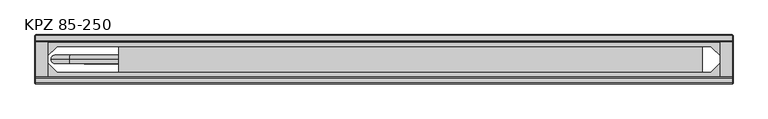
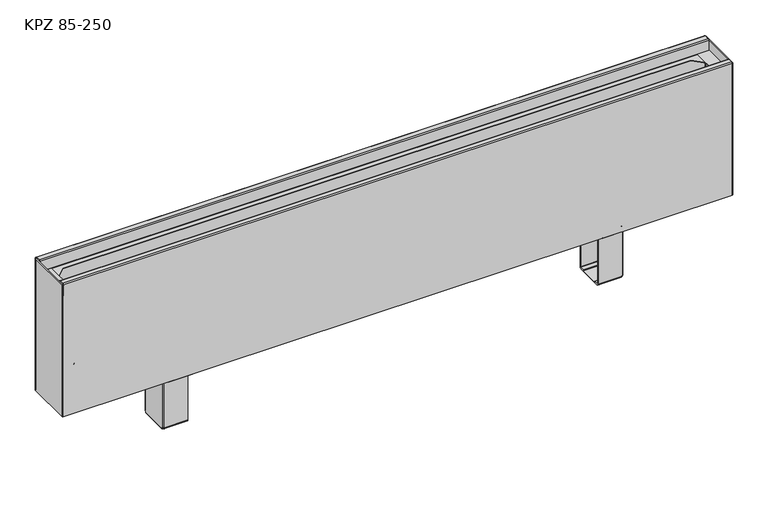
"""IFC4 building model written with IfcOpenShell, lengths in millimetres: proxy geometry, TECHNO_Конвектор напольный_Vita KPZ 85 : KPZ 85-250."""

from ifc_helpers import new_model, si_unit, point, frame, origin, place, context, project, spatial, polyline, circle_curve, ellipse_curve, trimmed, outline, extrude, source, transform, mapped, element, save
from ifc_brep_helpers import plane_surface, cylinder_surface, revolved_surface, advanced_brep


def kpz_85_250_7eb617d8(model_context):
    return source(origin(), model_context, "Body", "SolidModel", [
        advanced_brep(
        [(409.7, -116.8, 1.5), (409.7, -114.5, 3.8), (409.7, -114.5, 4.9), (409.7, -116.0, 4.9), (409.7, -116.0, 3.8), (409.7, -116.8, 3.0), (409.7, -124.5, 3.0), (409.7, -124.5, 1.5), (409.7, -117.6, 1.5), (409.7, -114.5, 97.7), (409.7, -113.7, 98.5), (409.7, -101.0, 98.5), (409.7, -101.0, 100.0), (409.7, -113.7, 100.0), (409.7, -116.0, 97.7), (409.7, -116.0, 95.5), (409.7, -114.5, 95.5), (409.7, -170.5, 3.8), (409.7, -168.2, 1.5), (409.7, -167.4, 1.5), (409.7, -160.5, 1.5), (409.7, -160.5, 3.0), (409.7, -168.2, 3.0), (409.7, -169.0, 3.8), (409.7, -169.0, 4.9), (409.7, -170.5, 4.9), (409.7, -169.0, 97.7), (409.7, -171.3, 100.0), (409.7, -184.0, 100.0), (409.7, -184.0, 98.5), (409.7, -171.3, 98.5), (409.7, -170.5, 97.7), (409.7, -170.5, 95.5), (409.7, -169.0, 95.5), (367.0, -170.5, 97.7), (367.0, -171.3, 98.5), (367.0, -184.0, 98.5), (367.0, -184.0, 100.0), (367.0, -171.3, 100.0), (367.0, -169.0, 97.7), (367.0, -169.0, 3.8), (367.0, -168.2, 3.0), (367.0, -160.5, 3.0), (367.0, -160.5, 1.5), (367.0, -124.5, 1.5), (367.0, -124.5, 3.0), (367.0, -116.8, 3.0), (367.0, -116.0, 3.8), (367.0, -116.0, 97.7), (367.0, -113.7, 100.0), (367.0, -101.0, 100.0), (367.0, -101.0, 98.5), (367.0, -113.7, 98.5), (367.0, -114.5, 97.7), (367.0, -114.5, 3.8), (367.0, -116.8, 1.5), (367.0, -117.6, 1.5), (367.0, -117.6, 0.0), (367.0, -167.4, 0.0), (367.0, -167.4, 1.5), (367.0, -168.2, 1.5), (367.0, -170.5, 3.8), (410.5, -116.8, 95.5), (410.5, -168.2, 95.5), (412.0, -168.2, 95.5), (412.0, -116.8, 95.5), (412.0, -116.8, 4.9), (412.0, -117.6, 4.9), (410.5, -117.6, 4.9), (410.5, -116.8, 4.9), (410.5, -168.2, 4.9), (410.5, -167.4, 4.9), (412.0, -167.4, 4.9), (412.0, -168.2, 4.9), (410.5, -117.6, 2.3), (410.5, -167.4, 2.3), (412.0, -167.4, 2.3), (412.0, -117.6, 2.3), (409.7, -117.6, 0.0), (409.7, -167.4, 0.0)],
        [
            (0, 1, circle_curve(frame((409.7, -116.8, 3.8), z_axis=(1.0, 0.0, 0.0), x_axis=(0.0, -1.0, 0.0)), 2.3)),
            (1, 2),
            (2, 3),
            (3, 4),
            (4, 5, circle_curve(frame((409.7, -116.8, 3.8), z_axis=(-1.0, 0.0, 0.0), x_axis=(0.0, -1.0, 0.0)), 0.8)),
            (5, 6),
            (6, 7),
            (7, 8),
            (8, 0),
            (9, 10, circle_curve(frame((409.7, -113.7, 97.7), z_axis=(-1.0, 0.0, 0.0), x_axis=(0.0, -1.0, 0.0)), 0.8)),
            (10, 11),
            (11, 12),
            (12, 13),
            (13, 14, circle_curve(frame((409.7, -113.7, 97.7), z_axis=(1.0, 0.0, 0.0), x_axis=(0.0, -1.0, 0.0)), 2.3)),
            (14, 15),
            (15, 16),
            (16, 9),
            (17, 18, circle_curve(frame((409.7, -168.2, 3.8), z_axis=(1.0, 0.0, 0.0), x_axis=(0.0, -1.0, 0.0)), 2.3)),
            (18, 19),
            (19, 20),
            (20, 21),
            (21, 22),
            (22, 23, circle_curve(frame((409.7, -168.2, 3.8), z_axis=(-1.0, 0.0, 0.0), x_axis=(0.0, -1.0, 0.0)), 0.8)),
            (23, 24),
            (24, 25),
            (25, 17),
            (26, 27, circle_curve(frame((409.7, -171.3, 97.7), z_axis=(1.0, 0.0, 0.0), x_axis=(0.0, -1.0, 0.0)), 2.3)),
            (27, 28),
            (28, 29),
            (29, 30),
            (30, 31, circle_curve(frame((409.7, -171.3, 97.7), z_axis=(-1.0, 0.0, 0.0), x_axis=(0.0, -1.0, 0.0)), 0.8)),
            (31, 32),
            (32, 33),
            (33, 26),
            (34, 35, circle_curve(frame((367.0, -171.3, 97.7), z_axis=(1.0, 0.0, 0.0), x_axis=(0.0, -1.0, 0.0)), 0.8)),
            (35, 36),
            (36, 37),
            (37, 38),
            (38, 39, circle_curve(frame((367.0, -171.3, 97.7), z_axis=(-1.0, 0.0, 0.0), x_axis=(0.0, -1.0, 0.0)), 2.3)),
            (39, 40),
            (40, 41, circle_curve(frame((367.0, -168.2, 3.8), z_axis=(1.0, 0.0, 0.0), x_axis=(0.0, -1.0, 0.0)), 0.8)),
            (41, 42),
            (42, 43),
            (43, 44),
            (44, 45),
            (45, 46),
            (46, 47, circle_curve(frame((367.0, -116.8, 3.8), z_axis=(1.0, 0.0, 0.0), x_axis=(0.0, -1.0, 0.0)), 0.8)),
            (47, 48),
            (48, 49, circle_curve(frame((367.0, -113.7, 97.7), z_axis=(-1.0, 0.0, 0.0), x_axis=(0.0, -1.0, 0.0)), 2.3)),
            (49, 50),
            (50, 51),
            (51, 52),
            (52, 53, circle_curve(frame((367.0, -113.7, 97.7), z_axis=(1.0, 0.0, 0.0), x_axis=(0.0, -1.0, 0.0)), 0.8)),
            (53, 54),
            (54, 55, circle_curve(frame((367.0, -116.8, 3.8), z_axis=(-1.0, 0.0, 0.0), x_axis=(0.0, -1.0, 0.0)), 2.3)),
            (55, 56),
            (56, 57),
            (57, 58),
            (58, 59),
            (59, 60),
            (60, 61, circle_curve(frame((367.0, -168.2, 3.8), z_axis=(-1.0, 0.0, 0.0), x_axis=(0.0, -1.0, 0.0)), 2.3)),
            (61, 34),
            (30, 35),
            (34, 31),
            (29, 36),
            (28, 37),
            (27, 38),
            (26, 39),
            (33, 24),
            (23, 40),
            (22, 41),
            (5, 46),
            (45, 6),
            (4, 47),
            (3, 15),
            (14, 48),
            (13, 49),
            (12, 50),
            (11, 51),
            (10, 52),
            (9, 53),
            (16, 2),
            (1, 54),
            (0, 55),
            (8, 56),
            (17, 61),
            (60, 18),
            (25, 32),
            (21, 42),
            (20, 43),
            (59, 19),
            (44, 7),
            (15, 62, circle_curve(frame((409.7, -116.8, 95.5), z_axis=(0.0, 0.0, -1.0), x_axis=(-1.0, 0.0, 0.0)), 0.8)),
            (62, 63),
            (63, 33, circle_curve(frame((409.7, -168.2, 95.5), z_axis=(0.0, 0.0, -1.0), x_axis=(-1.0, 0.0, 0.0)), 0.8)),
            (32, 64, circle_curve(frame((409.7, -168.2, 95.5), z_axis=(0.0, 0.0, 1.0), x_axis=(-1.0, 0.0, 0.0)), 2.3)),
            (64, 65),
            (65, 16, circle_curve(frame((409.7, -116.8, 95.5), z_axis=(0.0, 0.0, 1.0), x_axis=(-1.0, 0.0, 0.0)), 2.3)),
            (2, 66, circle_curve(frame((409.7, -116.8, 4.9), z_axis=(0.0, 0.0, -1.0), x_axis=(-1.0, 0.0, 0.0)), 2.3)),
            (66, 67),
            (67, 68),
            (68, 69),
            (69, 3, circle_curve(frame((409.7, -116.8, 4.9), z_axis=(0.0, 0.0, 1.0), x_axis=(-1.0, 0.0, 0.0)), 0.8)),
            (24, 70, circle_curve(frame((409.7, -168.2, 4.9), z_axis=(0.0, 0.0, 1.0), x_axis=(-1.0, 0.0, 0.0)), 0.8)),
            (70, 71),
            (71, 72),
            (72, 73),
            (73, 25, circle_curve(frame((409.7, -168.2, 4.9), z_axis=(0.0, 0.0, -1.0), x_axis=(-1.0, 0.0, 0.0)), 2.3)),
            (69, 62),
            (68, 74),
            (74, 75),
            (75, 71),
            (70, 63),
            (64, 73),
            (72, 76),
            (76, 77),
            (77, 67),
            (66, 65),
            (8, 74, circle_curve(frame((409.7, -117.6, 2.3), z_axis=(0.0, -1.0, 0.0), x_axis=(-1.0, 0.0, 0.0)), 0.8)),
            (77, 78, circle_curve(frame((409.7, -117.6, 2.3), z_axis=(0.0, 1.0, 0.0), x_axis=(-1.0, 0.0, 0.0)), 2.3)),
            (78, 57),
            (58, 79),
            (79, 76, circle_curve(frame((409.7, -167.4, 2.3), z_axis=(0.0, -1.0, 0.0), x_axis=(-1.0, 0.0, 0.0)), 2.3)),
            (75, 19, circle_curve(frame((409.7, -167.4, 2.3), z_axis=(0.0, 1.0, 0.0), x_axis=(-1.0, 0.0, 0.0)), 0.8)),
            (20, 7),
            (79, 78),
        ],
        [
            plane_surface(frame((409.7, -172.1, 97.7), z_axis=(1.0, 0.0, 0.0), x_axis=(0.0, 0.0, 1.0))),
            plane_surface(frame((367.0, -172.1, 97.7), z_axis=(-1.0, 0.0, 0.0), x_axis=(0.0, 0.0, -1.0))),
            revolved_surface(polyline([(409.7, -172.10000000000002, 97.7), (367.0, -172.10000000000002, 97.7)]), (409.7, -171.3, 97.7), (1.0, 0.0, 0.0)),
            plane_surface(frame((367.0, -171.3, 98.5), z_axis=(0.0, 0.0, -1.0), x_axis=(1.0, 0.0, 0.0))),
            plane_surface(frame((367.0, -184.0, 98.5), z_axis=(0.0, -1.0, 0.0), x_axis=(1.0, 0.0, 0.0))),
            plane_surface(frame((367.0, -184.0, 100.0), z_axis=(0.0, 0.0, 1.0), x_axis=(1.0, 0.0, 0.0))),
            cylinder_surface(frame((409.7, -171.3, 97.7), z_axis=(-1.0, 0.0, 0.0), x_axis=(0.0, -1.0, 0.0)), 2.3),
            plane_surface(frame((367.0, -169.0, 97.7), z_axis=(0.0, 1.0, 3.6919938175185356e-12), x_axis=(1.0, 0.0, 0.0))),
            revolved_surface(polyline([(409.7, -169.0, 3.8), (367.0, -169.0, 3.8)]), (409.7, -168.2, 3.8), (1.0, 0.0, 0.0)),
            plane_surface(frame((367.0, -124.5, 3.0), z_axis=(0.0, 0.0, 1.0), x_axis=(1.0, 0.0, 0.0))),
            revolved_surface(polyline([(409.7, -117.6, 3.8), (367.0, -117.6, 3.8)]), (412.0, -116.8, 3.8), (1.0, 0.0, 0.0)),
            plane_surface(frame((367.0, -116.0, 3.8), z_axis=(0.0, -1.0, 0.0), x_axis=(1.0, 0.0, 0.0))),
            cylinder_surface(frame((412.0, -113.7, 97.7), z_axis=(-1.0, 0.0, 0.0), x_axis=(0.0, -1.0, 0.0)), 2.3),
            plane_surface(frame((367.0, -113.7, 100.0), z_axis=(0.0, 0.0, 1.0), x_axis=(1.0, 0.0, 0.0))),
            plane_surface(frame((367.0, -101.0, 100.0), z_axis=(0.0, 1.0, 0.0), x_axis=(1.0, 0.0, 0.0))),
            plane_surface(frame((367.0, -101.0, 98.5), z_axis=(0.0, 0.0, -1.0), x_axis=(1.0, 0.0, 0.0))),
            revolved_surface(polyline([(409.7, -114.5, 97.7), (367.0, -114.5, 97.7)]), (412.0, -113.7, 97.7), (1.0, 0.0, 0.0)),
            plane_surface(frame((367.0, -114.5, 97.7), z_axis=(0.0, 1.0, 0.0), x_axis=(1.0, 0.0, 0.0))),
            cylinder_surface(frame((412.0, -116.8, 3.8), z_axis=(-1.0, 0.0, 0.0), x_axis=(0.0, -1.0, 0.0)), 2.3),
            plane_surface(frame((367.0, -116.8, 1.5), z_axis=(0.0, 0.0, -1.0), x_axis=(1.0, 0.0, 0.0))),
            cylinder_surface(frame((409.7, -168.2, 3.8), z_axis=(-1.0, 0.0, 0.0), x_axis=(0.0, -1.0, 0.0)), 2.3),
            plane_surface(frame((367.0, -170.5, 3.8), z_axis=(0.0, -1.0, 0.0), x_axis=(1.0, 0.0, 0.0))),
            plane_surface(frame((367.0, -168.2, 3.0), z_axis=(0.0, 0.0, 1.0), x_axis=(1.0, 0.0, 0.0))),
            plane_surface(frame((367.0, -160.5, 3.0), z_axis=(0.0, 1.0, 0.0), x_axis=(1.0, 0.0, 0.0))),
            plane_surface(frame((367.0, -160.5, 1.5), z_axis=(0.0, 0.0, -1.0), x_axis=(1.0, 0.0, 0.0))),
            plane_surface(frame((367.0, -124.5, 1.5), z_axis=(0.0, -1.0, 0.0), x_axis=(1.0, 0.0, 0.0))),
            plane_surface(frame((409.7, -116.0, 95.5), z_axis=(0.0, 0.0, 1.0), x_axis=(0.0, -1.0, 0.0))),
            plane_surface(frame((409.7, -116.0, 4.9), z_axis=(0.0, 0.0, -1.0), x_axis=(0.0, 1.0, 0.0))),
            revolved_surface(polyline([(408.9, -116.8, 4.9), (408.9, -116.8, 95.5)]), (409.7, -116.8, 4.9), (0.0, 0.0, -1.0)),
            plane_surface(frame((410.5, -116.8, 95.5), z_axis=(-1.0, 0.0, 0.0), x_axis=(0.0, 0.0, -1.0))),
            plane_surface(frame((412.0, -117.6, 95.5), z_axis=(1.0, -4.3226800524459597e-10, 0.0), x_axis=(0.0, 0.0, -1.0))),
            cylinder_surface(frame((409.7, -116.8, 4.9), z_axis=(0.0, 0.0, 1.0), x_axis=(-1.0, 0.0, 0.0)), 2.3),
            cylinder_surface(frame((409.7, -168.2, 0.0), z_axis=(0.0, 0.0, 1.0), x_axis=(-1.0, 0.0, 0.0)), 2.3),
            revolved_surface(polyline([(408.9, -168.2, 4.9), (408.9, -168.2, 95.5)]), (409.7, -168.2, 0.0), (0.0, 0.0, -1.0)),
            plane_surface(frame((367.0, -117.6, 1.5), z_axis=(0.0, 1.0, 0.0), x_axis=(0.0, 0.0, 1.0))),
            plane_surface(frame((367.0, -167.4, 1.5), z_axis=(0.0, -1.0, 0.0), x_axis=(0.0, 0.0, -1.0))),
            plane_surface(frame((367.0, -117.6, 1.5), z_axis=(0.0, 0.0, 1.0), x_axis=(0.0, -1.0, 0.0))),
            revolved_surface(polyline([(408.9, -167.4, 2.3), (408.9, -117.6, 2.3)]), (409.7, -167.4, 2.3), (0.0, -1.0, 0.0)),
            cylinder_surface(frame((409.7, -167.4, 2.3), z_axis=(0.0, 1.0, 0.0), x_axis=(-1.0, 0.0, 0.0)), 2.3),
            plane_surface(frame((409.7, -117.6, 0.0), z_axis=(0.0, 0.0, -1.0), x_axis=(0.0, -1.0, 0.0))),
        ],
        [
            (0, [[1, 2, 3, 4, 5, 6, 7, 8, 9]]),
            (0, [[10, 11, 12, 13, 14, 15, 16, 17]]),
            (0, [[18, 19, 20, 21, 22, 23, 24, 25, 26]]),
            (0, [[27, 28, 29, 30, 31, 32, 33, 34]]),
            (1, [[35, 36, 37, 38, 39, 40, 41, 42, 43, 44, 45, 46, 47, 48, 49, 50, 51, 52, 53, 54, 55, 56, 57, 58, 59, 60, 61, 62]]),
            (2, [[-31, 63, -35, 64]]),
            (3, [[-30, 65, -36, -63]]),
            (4, [[-29, 66, -37, -65]]),
            (5, [[-28, 67, -38, -66]]),
            (6, [[-27, 68, -39, -67]]),
            (7, [[-40, -68, -34, 69, -24, 70]]),
            (8, [[-23, 71, -41, -70]]),
            (9, [[-6, 72, -46, 73]]),
            (10, [[-5, 74, -47, -72]]),
            (11, [[-48, -74, -4, 75, -15, 76]]),
            (12, [[-14, 77, -49, -76]]),
            (13, [[-13, 78, -50, -77]]),
            (14, [[-12, 79, -51, -78]]),
            (15, [[-11, 80, -52, -79]]),
            (16, [[-10, 81, -53, -80]]),
            (17, [[-54, -81, -17, 82, -2, 83]]),
            (18, [[-1, 84, -55, -83]]),
            (19, [[-84, -9, 85, -56]]),
            (20, [[-18, 86, -61, 87]]),
            (21, [[-62, -86, -26, 88, -32, -64]]),
            (22, [[-22, 89, -42, -71]]),
            (23, [[-21, 90, -43, -89]]),
            (24, [[-87, -60, 91, -19]]),
            (25, [[-7, -73, -45, 92]]),
            (26, [[93, 94, 95, -33, 96, 97, 98, -16]]),
            (27, [[99, 100, 101, 102, 103, -3]]),
            (27, [[104, 105, 106, 107, 108, -25]]),
            (28, [[-93, -75, -103, 109]]),
            (29, [[-94, -109, -102, 110, 111, 112, -105, 113]]),
            (30, [[-97, 114, -107, 115, 116, 117, -100, 118]]),
            (31, [[-98, -118, -99, -82]]),
            (32, [[-96, -88, -108, -114]]),
            (33, [[-95, -113, -104, -69]]),
            (34, [[-57, -85, 119, -110, -101, -117, 120, 121]]),
            (35, [[122, 123, -115, -106, -112, 124, -91, -59]]),
            (36, [[125, -92, -44, -90]]),
            (37, [[-119, -8, -125, -20, -124, -111]]),
            (38, [[-120, -116, -123, 126]]),
            (39, [[-121, -126, -122, -58]]),
        ],
    ),
        advanced_brep(
        [(-409.7, -168.2, 1.5), (-409.7, -170.5, 3.8), (-409.7, -170.5, 4.9), (-409.7, -169.0, 4.9), (-409.7, -169.0, 3.8), (-409.7, -168.2, 3.0), (-409.7, -160.5, 3.0), (-409.7, -160.5, 1.5), (-409.7, -167.4, 1.5), (-409.7, -170.5, 97.7), (-409.7, -171.3, 98.5), (-409.7, -184.0, 98.5), (-409.7, -184.0, 100.0), (-409.7, -171.3, 100.0), (-409.7, -169.0, 97.7), (-409.7, -169.0, 95.5), (-409.7, -170.5, 95.5), (-409.7, -114.5, 3.8), (-409.7, -116.8, 1.5), (-409.7, -117.6, 1.5), (-409.7, -124.5, 1.5), (-409.7, -124.5, 3.0), (-409.7, -116.8, 3.0), (-409.7, -116.0, 3.8), (-409.7, -116.0, 4.9), (-409.7, -114.5, 4.9), (-409.7, -116.0, 97.7), (-409.7, -113.7, 100.0), (-409.7, -101.0, 100.0), (-409.7, -101.0, 98.5), (-409.7, -113.7, 98.5), (-409.7, -114.5, 97.7), (-409.7, -114.5, 95.5), (-409.7, -116.0, 95.5), (-367.0, -114.5, 97.7), (-367.0, -113.7, 98.5), (-367.0, -101.0, 98.5), (-367.0, -101.0, 100.0), (-367.0, -113.7, 100.0), (-367.0, -116.0, 97.7), (-367.0, -116.0, 3.8), (-367.0, -116.8, 3.0), (-367.0, -124.5, 3.0), (-367.0, -124.5, 1.5), (-367.0, -160.5, 1.5), (-367.0, -160.5, 3.0), (-367.0, -168.2, 3.0), (-367.0, -169.0, 3.8), (-367.0, -169.0, 97.7), (-367.0, -171.3, 100.0), (-367.0, -184.0, 100.0), (-367.0, -184.0, 98.5), (-367.0, -171.3, 98.5), (-367.0, -170.5, 97.7), (-367.0, -170.5, 3.8), (-367.0, -168.2, 1.5), (-367.0, -167.4, 1.5), (-367.0, -167.4, 0.0), (-367.0, -117.6, 0.0), (-367.0, -117.6, 1.5), (-367.0, -116.8, 1.5), (-367.0, -114.5, 3.8), (-410.5, -168.2, 95.5), (-410.5, -116.8, 95.5), (-412.0, -116.8, 95.5), (-412.0, -168.2, 95.5), (-412.0, -168.2, 4.9), (-412.0, -167.4, 4.9), (-410.5, -167.4, 4.9), (-410.5, -168.2, 4.9), (-410.5, -116.8, 4.9), (-410.5, -117.6, 4.9), (-412.0, -117.6, 4.9), (-412.0, -116.8, 4.9), (-410.5, -167.4, 2.3), (-410.5, -117.6, 2.3), (-412.0, -117.6, 2.3), (-412.0, -167.4, 2.3), (-409.7, -167.4, 0.0), (-409.7, -117.6, 0.0)],
        [
            (0, 1, circle_curve(frame((-409.7, -168.2, 3.8), z_axis=(-1.0, 0.0, 0.0), x_axis=(0.0, 1.0, 0.0)), 2.3)),
            (1, 2),
            (2, 3),
            (3, 4),
            (4, 5, circle_curve(frame((-409.7, -168.2, 3.8), z_axis=(1.0, 0.0, 0.0), x_axis=(0.0, 1.0, 0.0)), 0.8)),
            (5, 6),
            (6, 7),
            (7, 8),
            (8, 0),
            (9, 10, circle_curve(frame((-409.7, -171.3, 97.7), z_axis=(1.0, 0.0, 0.0), x_axis=(0.0, 1.0, 0.0)), 0.8)),
            (10, 11),
            (11, 12),
            (12, 13),
            (13, 14, circle_curve(frame((-409.7, -171.3, 97.7), z_axis=(-1.0, 0.0, 0.0), x_axis=(0.0, 1.0, 0.0)), 2.3)),
            (14, 15),
            (15, 16),
            (16, 9),
            (17, 18, circle_curve(frame((-409.7, -116.8, 3.8), z_axis=(-1.0, 0.0, 0.0), x_axis=(0.0, 1.0, 0.0)), 2.3)),
            (18, 19),
            (19, 20),
            (20, 21),
            (21, 22),
            (22, 23, circle_curve(frame((-409.7, -116.8, 3.8), z_axis=(1.0, 0.0, 0.0), x_axis=(0.0, 1.0, 0.0)), 0.8)),
            (23, 24),
            (24, 25),
            (25, 17),
            (26, 27, circle_curve(frame((-409.7, -113.7, 97.7), z_axis=(-1.0, 0.0, 0.0), x_axis=(0.0, 1.0, 0.0)), 2.3)),
            (27, 28),
            (28, 29),
            (29, 30),
            (30, 31, circle_curve(frame((-409.7, -113.7, 97.7), z_axis=(1.0, 0.0, 0.0), x_axis=(0.0, 1.0, 0.0)), 0.8)),
            (31, 32),
            (32, 33),
            (33, 26),
            (34, 35, circle_curve(frame((-367.0, -113.7, 97.7), z_axis=(-1.0, 0.0, 0.0), x_axis=(0.0, 1.0, 0.0)), 0.8)),
            (35, 36),
            (36, 37),
            (37, 38),
            (38, 39, circle_curve(frame((-367.0, -113.7, 97.7), z_axis=(1.0, 0.0, 0.0), x_axis=(0.0, 1.0, 0.0)), 2.3)),
            (39, 40),
            (40, 41, circle_curve(frame((-367.0, -116.8, 3.8), z_axis=(-1.0, 0.0, 0.0), x_axis=(0.0, 1.0, 0.0)), 0.8)),
            (41, 42),
            (42, 43),
            (43, 44),
            (44, 45),
            (45, 46),
            (46, 47, circle_curve(frame((-367.0, -168.2, 3.8), z_axis=(-1.0, 0.0, 0.0), x_axis=(0.0, 1.0, 0.0)), 0.8)),
            (47, 48),
            (48, 49, circle_curve(frame((-367.0, -171.3, 97.7), z_axis=(1.0, 0.0, 0.0), x_axis=(0.0, 1.0, 0.0)), 2.3)),
            (49, 50),
            (50, 51),
            (51, 52),
            (52, 53, circle_curve(frame((-367.0, -171.3, 97.7), z_axis=(-1.0, 0.0, 0.0), x_axis=(0.0, 1.0, 0.0)), 0.8)),
            (53, 54),
            (54, 55, circle_curve(frame((-367.0, -168.2, 3.8), z_axis=(1.0, 0.0, 0.0), x_axis=(0.0, 1.0, 0.0)), 2.3)),
            (55, 56),
            (56, 57),
            (57, 58),
            (58, 59),
            (59, 60),
            (60, 61, circle_curve(frame((-367.0, -116.8, 3.8), z_axis=(1.0, 0.0, 0.0), x_axis=(0.0, 1.0, 0.0)), 2.3)),
            (61, 34),
            (30, 35),
            (34, 31),
            (29, 36),
            (28, 37),
            (27, 38),
            (26, 39),
            (33, 24),
            (23, 40),
            (22, 41),
            (5, 46),
            (45, 6),
            (4, 47),
            (3, 15),
            (14, 48),
            (13, 49),
            (12, 50),
            (11, 51),
            (10, 52),
            (9, 53),
            (16, 2),
            (1, 54),
            (0, 55),
            (8, 56),
            (17, 61),
            (60, 18),
            (25, 32),
            (21, 42),
            (20, 43),
            (59, 19),
            (44, 7),
            (15, 62, circle_curve(frame((-409.7, -168.2, 95.5), z_axis=(0.0, 0.0, -1.0), x_axis=(1.0, 0.0, 0.0)), 0.8)),
            (62, 63),
            (63, 33, circle_curve(frame((-409.7, -116.8, 95.5), z_axis=(0.0, 0.0, -1.0), x_axis=(1.0, 0.0, 0.0)), 0.8)),
            (32, 64, circle_curve(frame((-409.7, -116.8, 95.5), z_axis=(0.0, 0.0, 1.0), x_axis=(1.0, 0.0, 0.0)), 2.3)),
            (64, 65),
            (65, 16, circle_curve(frame((-409.7, -168.2, 95.5), z_axis=(0.0, 0.0, 1.0), x_axis=(1.0, 0.0, 0.0)), 2.3)),
            (2, 66, circle_curve(frame((-409.7, -168.2, 4.9), z_axis=(0.0, 0.0, -1.0), x_axis=(1.0, 0.0, 0.0)), 2.3)),
            (66, 67),
            (67, 68),
            (68, 69),
            (69, 3, circle_curve(frame((-409.7, -168.2, 4.9), z_axis=(0.0, 0.0, 1.0), x_axis=(1.0, 0.0, 0.0)), 0.8)),
            (24, 70, circle_curve(frame((-409.7, -116.8, 4.9), z_axis=(0.0, 0.0, 1.0), x_axis=(1.0, 0.0, 0.0)), 0.8)),
            (70, 71),
            (71, 72),
            (72, 73),
            (73, 25, circle_curve(frame((-409.7, -116.8, 4.9), z_axis=(0.0, 0.0, -1.0), x_axis=(1.0, 0.0, 0.0)), 2.3)),
            (69, 62),
            (68, 74),
            (74, 75),
            (75, 71),
            (70, 63),
            (64, 73),
            (72, 76),
            (76, 77),
            (77, 67),
            (66, 65),
            (8, 74, circle_curve(frame((-409.7, -167.4, 2.3), z_axis=(0.0, 1.0, 0.0), x_axis=(1.0, 0.0, 0.0)), 0.8)),
            (77, 78, circle_curve(frame((-409.7, -167.4, 2.3), z_axis=(0.0, -1.0, 0.0), x_axis=(1.0, 0.0, 0.0)), 2.3)),
            (78, 57),
            (58, 79),
            (79, 76, circle_curve(frame((-409.7, -117.6, 2.3), z_axis=(0.0, 1.0, 0.0), x_axis=(1.0, 0.0, 0.0)), 2.3)),
            (75, 19, circle_curve(frame((-409.7, -117.6, 2.3), z_axis=(0.0, -1.0, 0.0), x_axis=(1.0, 0.0, 0.0)), 0.8)),
            (20, 7),
            (79, 78),
        ],
        [
            plane_surface(frame((-409.7, -112.9, 97.7), z_axis=(-1.0, 0.0, 0.0), x_axis=(0.0, 0.0, 1.0))),
            plane_surface(frame((-367.0, -112.9, 97.7), z_axis=(1.0, 0.0, 0.0), x_axis=(0.0, 0.0, -1.0))),
            revolved_surface(polyline([(-409.7, -112.9, 97.7), (-367.0, -112.9, 97.7)]), (-409.7, -113.7, 97.7), (-1.0, 0.0, 0.0)),
            plane_surface(frame((-367.0, -113.7, 98.5), z_axis=(0.0, 0.0, -1.0), x_axis=(-1.0, 0.0, 0.0))),
            plane_surface(frame((-367.0, -101.0, 98.5), z_axis=(0.0, 1.0, 0.0), x_axis=(-1.0, 0.0, 0.0))),
            plane_surface(frame((-367.0, -101.0, 100.0), z_axis=(0.0, 0.0, 1.0), x_axis=(-1.0, 0.0, 0.0))),
            cylinder_surface(frame((-409.7, -113.7, 97.7), z_axis=(1.0, 0.0, 0.0), x_axis=(0.0, 1.0, 0.0)), 2.3),
            plane_surface(frame((-367.0, -116.0, 97.7), z_axis=(0.0, -1.0, 3.6919938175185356e-12), x_axis=(-1.0, 0.0, 0.0))),
            revolved_surface(polyline([(-409.7, -116.0, 3.8), (-367.0, -116.0, 3.8)]), (-409.7, -116.8, 3.8), (-1.0, 0.0, 0.0)),
            plane_surface(frame((-367.0, -160.5, 3.0), z_axis=(0.0, 0.0, 1.0), x_axis=(-1.0, 0.0, 0.0))),
            revolved_surface(polyline([(-409.7, -167.39999999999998, 3.8), (-367.0, -167.39999999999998, 3.8)]), (-412.0, -168.2, 3.8), (-1.0, 0.0, 0.0)),
            plane_surface(frame((-367.0, -169.0, 3.8), z_axis=(0.0, 1.0, 0.0), x_axis=(-1.0, 0.0, 0.0))),
            cylinder_surface(frame((-412.0, -171.3, 97.7), z_axis=(1.0, 0.0, 0.0), x_axis=(0.0, 1.0, 0.0)), 2.3),
            plane_surface(frame((-367.0, -171.3, 100.0), z_axis=(0.0, 0.0, 1.0), x_axis=(-1.0, 0.0, 0.0))),
            plane_surface(frame((-367.0, -184.0, 100.0), z_axis=(0.0, -1.0, 0.0), x_axis=(-1.0, 0.0, 0.0))),
            plane_surface(frame((-367.0, -184.0, 98.5), z_axis=(0.0, 0.0, -1.0), x_axis=(-1.0, 0.0, 0.0))),
            revolved_surface(polyline([(-409.7, -170.5, 97.7), (-367.0, -170.5, 97.7)]), (-412.0, -171.3, 97.7), (-1.0, 0.0, 0.0)),
            plane_surface(frame((-367.0, -170.5, 97.7), z_axis=(0.0, -1.0, 0.0), x_axis=(-1.0, 0.0, 0.0))),
            cylinder_surface(frame((-412.0, -168.2, 3.8), z_axis=(1.0, 0.0, 0.0), x_axis=(0.0, 1.0, 0.0)), 2.3),
            plane_surface(frame((-367.0, -168.2, 1.5), z_axis=(0.0, 0.0, -1.0), x_axis=(-1.0, 0.0, 0.0))),
            cylinder_surface(frame((-409.7, -116.8, 3.8), z_axis=(1.0, 0.0, 0.0), x_axis=(0.0, 1.0, 0.0)), 2.3),
            plane_surface(frame((-367.0, -114.5, 3.8), z_axis=(0.0, 1.0, 0.0), x_axis=(-1.0, 0.0, 0.0))),
            plane_surface(frame((-367.0, -116.8, 3.0), z_axis=(0.0, 0.0, 1.0), x_axis=(-1.0, 0.0, 0.0))),
            plane_surface(frame((-367.0, -124.5, 3.0), z_axis=(0.0, -1.0, 0.0), x_axis=(-1.0, 0.0, 0.0))),
            plane_surface(frame((-367.0, -124.5, 1.5), z_axis=(0.0, 0.0, -1.0), x_axis=(-1.0, 0.0, 0.0))),
            plane_surface(frame((-367.0, -160.5, 1.5), z_axis=(0.0, 1.0, 0.0), x_axis=(-1.0, 0.0, 0.0))),
            plane_surface(frame((-409.7, -169.0, 95.5), z_axis=(0.0, 0.0, 1.0), x_axis=(0.0, 1.0, 0.0))),
            plane_surface(frame((-409.7, -169.0, 4.9), z_axis=(0.0, 0.0, -1.0), x_axis=(0.0, -1.0, 0.0))),
            revolved_surface(polyline([(-408.9, -168.2, 4.9), (-408.9, -168.2, 95.5)]), (-409.7, -168.2, 4.9), (0.0, 0.0, -1.0)),
            plane_surface(frame((-410.5, -168.2, 95.5), z_axis=(1.0, 0.0, 0.0), x_axis=(0.0, 0.0, -1.0))),
            plane_surface(frame((-412.0, -167.4, 95.5), z_axis=(-1.0, 4.322648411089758e-10, 0.0), x_axis=(0.0, 0.0, -1.0))),
            cylinder_surface(frame((-409.7, -168.2, 4.9), z_axis=(0.0, 0.0, 1.0), x_axis=(1.0, 0.0, 0.0)), 2.3),
            cylinder_surface(frame((-409.7, -116.8, 0.0), z_axis=(0.0, 0.0, 1.0), x_axis=(1.0, 0.0, 0.0)), 2.3),
            revolved_surface(polyline([(-408.9, -116.8, 4.9), (-408.9, -116.8, 95.5)]), (-409.7, -116.8, 0.0), (0.0, 0.0, -1.0)),
            plane_surface(frame((-367.0, -167.4, 1.5), z_axis=(0.0, -1.0, 0.0), x_axis=(0.0, 0.0, 1.0))),
            plane_surface(frame((-367.0, -117.6, 1.5), z_axis=(0.0, 1.0, 0.0), x_axis=(0.0, 0.0, -1.0))),
            plane_surface(frame((-367.0, -167.4, 1.5), z_axis=(0.0, 0.0, 1.0), x_axis=(0.0, 1.0, 0.0))),
            revolved_surface(polyline([(-408.9, -117.6, 2.3), (-408.9, -167.4, 2.3)]), (-409.7, -117.6, 2.3), (0.0, 1.0, 0.0)),
            cylinder_surface(frame((-409.7, -117.6, 2.3), z_axis=(0.0, -1.0, 0.0), x_axis=(1.0, 0.0, 0.0)), 2.3),
            plane_surface(frame((-409.7, -167.4, 0.0), z_axis=(0.0, 0.0, -1.0), x_axis=(0.0, 1.0, 0.0))),
        ],
        [
            (0, [[1, 2, 3, 4, 5, 6, 7, 8, 9]]),
            (0, [[10, 11, 12, 13, 14, 15, 16, 17]]),
            (0, [[18, 19, 20, 21, 22, 23, 24, 25, 26]]),
            (0, [[27, 28, 29, 30, 31, 32, 33, 34]]),
            (1, [[35, 36, 37, 38, 39, 40, 41, 42, 43, 44, 45, 46, 47, 48, 49, 50, 51, 52, 53, 54, 55, 56, 57, 58, 59, 60, 61, 62]]),
            (2, [[-31, 63, -35, 64]]),
            (3, [[-30, 65, -36, -63]]),
            (4, [[-29, 66, -37, -65]]),
            (5, [[-28, 67, -38, -66]]),
            (6, [[-27, 68, -39, -67]]),
            (7, [[-40, -68, -34, 69, -24, 70]]),
            (8, [[-23, 71, -41, -70]]),
            (9, [[-6, 72, -46, 73]]),
            (10, [[-5, 74, -47, -72]]),
            (11, [[-48, -74, -4, 75, -15, 76]]),
            (12, [[-14, 77, -49, -76]]),
            (13, [[-13, 78, -50, -77]]),
            (14, [[-12, 79, -51, -78]]),
            (15, [[-11, 80, -52, -79]]),
            (16, [[-10, 81, -53, -80]]),
            (17, [[-54, -81, -17, 82, -2, 83]]),
            (18, [[-1, 84, -55, -83]]),
            (19, [[-84, -9, 85, -56]]),
            (20, [[-18, 86, -61, 87]]),
            (21, [[-62, -86, -26, 88, -32, -64]]),
            (22, [[-22, 89, -42, -71]]),
            (23, [[-21, 90, -43, -89]]),
            (24, [[-87, -60, 91, -19]]),
            (25, [[-7, -73, -45, 92]]),
            (26, [[93, 94, 95, -33, 96, 97, 98, -16]]),
            (27, [[99, 100, 101, 102, 103, -3]]),
            (27, [[104, 105, 106, 107, 108, -25]]),
            (28, [[-93, -75, -103, 109]]),
            (29, [[-94, -109, -102, 110, 111, 112, -105, 113]]),
            (30, [[-97, 114, -107, 115, 116, 117, -100, 118]]),
            (31, [[-98, -118, -99, -82]]),
            (32, [[-96, -88, -108, -114]]),
            (33, [[-95, -113, -104, -69]]),
            (34, [[-57, -85, 119, -110, -101, -117, 120, 121]]),
            (35, [[122, 123, -115, -106, -112, 124, -91, -59]]),
            (36, [[125, -92, -44, -90]]),
            (37, [[-119, -8, -125, -20, -124, -111]]),
            (38, [[-120, -116, -123, 126]]),
            (39, [[-121, -126, -122, -58]]),
        ],
    ),
        advanced_brep(
        [(-455.64, -142.5, 186.5), (-455.64, -142.5, 171.5), (-540.0, -142.5, 186.5), (-540.0, -142.5, 171.5), (-557.5, -142.5, 154.0), (-572.5, -142.5, 154.0), (-572.5, -142.5, 100.0), (-557.5, -142.5, 100.0)],
        [
            (0, 1, circle_curve(frame((-455.64, -142.5, 179.0), z_axis=(1.0, 0.0, 0.0), x_axis=(0.0, 0.0, -1.0)), 7.5)),
            (1, 0, circle_curve(frame((-455.64, -142.5, 179.0), z_axis=(1.0, 0.0, 0.0), x_axis=(0.0, 0.0, -1.0)), 7.5)),
            (0, 2),
            (2, 3, circle_curve(frame((-540.0, -142.5, 179.0), z_axis=(1.0, 0.0, 0.0), x_axis=(0.0, 0.0, -1.0)), 7.5)),
            (3, 1),
            (3, 2, circle_curve(frame((-540.0, -142.5, 179.0), z_axis=(1.0, 0.0, 0.0), x_axis=(0.0, 0.0, -1.0)), 7.5)),
            (4, 3, circle_curve(frame((-540.0, -142.5, 154.0), z_axis=(0.0, 1.0, 0.0), x_axis=(0.0, 0.0, 1.0)), 17.5)),
            (2, 5, circle_curve(frame((-540.0, -142.5, 154.0), z_axis=(0.0, -1.0, 0.0), x_axis=(0.0, 0.0, 1.0)), 32.5)),
            (5, 4, circle_curve(frame((-565.0, -142.5, 154.0), z_axis=(0.0, 0.0, 1.0), x_axis=(1.0, 0.0, 0.0)), 7.5)),
            (4, 5, circle_curve(frame((-565.0, -142.5, 154.0), z_axis=(0.0, 0.0, 1.0), x_axis=(1.0, 0.0, 0.0)), 7.5)),
            (6, 7, circle_curve(frame((-565.0, -142.5, 100.0), z_axis=(0.0, 0.0, -1.0), x_axis=(1.0, 0.0, 0.0)), 7.5)),
            (7, 6, circle_curve(frame((-565.0, -142.5, 100.0), z_axis=(0.0, 0.0, -1.0), x_axis=(1.0, 0.0, 0.0)), 7.5)),
            (5, 6),
            (7, 4),
        ],
        [
            plane_surface(frame((-455.64, -142.5, 179.0), z_axis=(1.0, 0.0, 0.0), x_axis=(0.0, -1.0, 0.0))),
            cylinder_surface(frame((-455.64, -142.5, 179.0), z_axis=(1.0, 0.0, 0.0), x_axis=(0.0, 0.0, -1.0)), 7.5),
            revolved_surface(trimmed(ellipse_curve(frame((-540.0, -142.5, 179.0), z_axis=(1.0, 0.0, 0.0), x_axis=(0.0, 0.0, -1.0)), 7.5, 7.5), [point((-540.0, -142.5, 186.5))], [point((-540.0, -142.5, 171.5))], True, "CARTESIAN"), (-540.0, -142.5, 154.0), (0.0, -1.0, 0.0)),
            revolved_surface(trimmed(ellipse_curve(frame((-540.0, -142.5, 179.0), z_axis=(1.0, 0.0, 0.0), x_axis=(0.0, 0.0, -1.0)), 7.5, 7.5), [point((-540.0, -142.5, 171.5))], [point((-540.0, -142.5, 186.5))], True, "CARTESIAN"), (-540.0, -142.5, 154.0), (0.0, -1.0, 0.0)),
            plane_surface(frame((-565.0, -142.5, 100.0), z_axis=(0.0, 0.0, -1.0), x_axis=(0.0, -1.0, 0.0))),
            cylinder_surface(frame((-565.0, -142.5, 154.0), z_axis=(0.0, 0.0, 1.0), x_axis=(1.0, 0.0, 0.0)), 7.5),
        ],
        [
            (0, [[1, 2]]),
            (1, [[-1, 3, 4, 5]]),
            (1, [[-2, -5, 6, -3]]),
            (2, [[7, -4, 8, 9]]),
            (3, [[-8, -6, -7, 10]]),
            (4, [[11, 12]]),
            (5, [[-9, 13, -12, 14]]),
            (5, [[-10, -14, -11, -13]]),
        ],
    ),
        advanced_brep(
        [(-455.64, -142.5, 136.5), (-455.64, -142.5, 121.5), (-522.5, -142.5, 136.5), (-507.5, -142.5, 121.5), (-522.5, -142.5, 100.0), (-507.5, -142.5, 100.0)],
        [
            (0, 1, circle_curve(frame((-455.64, -142.5, 129.0), z_axis=(1.0, 0.0, 0.0), x_axis=(0.0, 0.0, -1.0)), 7.5)),
            (1, 0, circle_curve(frame((-455.64, -142.5, 129.0), z_axis=(1.0, 0.0, 0.0), x_axis=(0.0, 0.0, -1.0)), 7.5)),
            (0, 2),
            (2, 3, ellipse_curve(frame((-515.0, -142.5, 129.0), z_axis=(0.7071067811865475, 0.0, 0.7071067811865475), x_axis=(0.7071067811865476, 0.0, -0.7071067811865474)), 10.6066017, 7.5)),
            (3, 1),
            (3, 2, ellipse_curve(frame((-515.0, -142.5, 129.0), z_axis=(0.7071067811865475, 0.0, 0.7071067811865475), x_axis=(0.7071067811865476, 0.0, -0.7071067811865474)), 10.6066017, 7.5)),
            (4, 5, circle_curve(frame((-515.0, -142.5, 100.0), z_axis=(0.0, 0.0, -1.0), x_axis=(1.0, 0.0, 0.0)), 7.5)),
            (5, 4, circle_curve(frame((-515.0, -142.5, 100.0), z_axis=(0.0, 0.0, -1.0), x_axis=(1.0, 0.0, 0.0)), 7.5)),
            (2, 4),
            (5, 3),
        ],
        [
            plane_surface(frame((-455.64, -142.5, 129.0), z_axis=(1.0, 0.0, 0.0), x_axis=(0.0, -1.0, 0.0))),
            cylinder_surface(frame((-455.64, -142.5, 129.0), z_axis=(1.0, 0.0, 0.0), x_axis=(0.0, 0.0, -1.0)), 7.5),
            plane_surface(frame((-515.0, -142.5, 100.0), z_axis=(0.0, 0.0, -1.0), x_axis=(0.0, -1.0, 0.0))),
            cylinder_surface(frame((-515.0, -142.5, 129.0), z_axis=(0.0, 0.0, 1.0), x_axis=(1.0, 0.0, 0.0)), 7.5),
        ],
        [
            (0, [[1, 2]]),
            (1, [[-1, 3, 4, 5]]),
            (1, [[-2, -5, 6, -3]]),
            (2, [[7, 8]]),
            (3, [[-4, 9, -8, 10]]),
            (3, [[-6, -10, -7, -9]]),
        ],
    ),
        extrude(outline(polyline([(547.36, -117.5), (547.36, -167.5), (-455.64, -167.5), (-455.64, -117.5), (547.36, -117.5)])), frame((0.0, 0.0, 104.7), z_axis=(0.0, 0.0, 1.0), x_axis=(1.0, 0.0, 0.0)), (0.0, 0.0, 1.0), 100.0),
        extrude(outline(polyline([(-585.5004, -102.0), (-585.5004, -183.0), (-599.0, -183.0), (-599.0, -102.0), (-585.5004, -102.0)])), frame((0.0, 0.0, 101.83), z_axis=(0.0, 0.0, 1.0), x_axis=(1.0, 0.0, 0.0)), (0.0, 0.0, 1.0), 1.0002),
        extrude(outline(polyline([(585.5004, -102.0), (599.0, -102.0), (599.0, -183.0), (585.5004, -183.0), (585.5004, -102.0)])), frame((0.0, 0.0, 101.83), z_axis=(0.0, 0.0, 1.0), x_axis=(1.0, 0.0, 0.0)), (0.0, 0.0, 1.0), 1.0002),
        extrude(outline(polyline([(-599.0, -172.2), (-599.0, -112.8), (-578.0, -112.8), (-578.0, -172.2), (-599.0, -172.2)])), frame((0.0, 0.0, 328.83), z_axis=(0.0, 0.0, 1.0), x_axis=(1.0, 0.0, 0.0)), (0.0, 0.0, 1.0), 1.0002),
        extrude(outline(polyline([(599.0, -172.2), (578.0, -172.2), (578.0, -112.8), (599.0, -112.8), (599.0, -172.2)])), frame((0.0, 0.0, 328.83), z_axis=(0.0, 0.0, 1.0), x_axis=(1.0, 0.0, 0.0)), (0.0, 0.0, 1.0), 1.0002),
        advanced_brep(
        [(-598.2, -101.8, 350.83), (-598.2, -100.0, 349.03), (-598.2, -101.0, 349.03), (-598.2, -101.0, 327.83), (-598.2, -138.5, 327.83), (-598.2, -138.5, 328.83), (-598.2, -112.8, 328.83), (-598.2, -112.0, 329.63), (-598.2, -112.0, 349.03), (-598.2, -110.2, 350.83), (-598.2, -183.2, 350.83), (-598.2, -174.8, 350.83), (-598.2, -173.0, 349.03), (-598.2, -173.0, 329.63), (-598.2, -172.2, 328.83), (-598.2, -146.5, 328.83), (-598.2, -146.5, 327.83), (-598.2, -184.0, 327.83), (-598.2, -184.0, 349.03), (-598.2, -185.0, 349.03), (598.2, -101.8, 350.83), (598.2, -110.2, 350.83), (598.2, -112.0, 349.03), (598.2, -112.0, 329.63), (598.2, -112.8, 328.83), (598.2, -138.5, 328.83), (598.2, -138.5, 327.83), (598.2, -101.0, 327.83), (598.2, -101.0, 349.03), (598.2, -100.0, 349.03), (598.2, -183.2, 350.83), (598.2, -185.0, 349.03), (598.2, -184.0, 349.03), (598.2, -184.0, 327.83), (598.2, -146.5, 327.83), (598.2, -146.5, 328.83), (598.2, -172.2, 328.83), (598.2, -173.0, 329.63), (598.2, -173.0, 349.03), (598.2, -174.8, 350.83), (-580.3, -138.5, 328.83), (-561.8, -120.0, 328.83), (561.8, -120.0, 328.83), (580.3, -138.5, 328.83), (-580.3, -138.5, 327.83), (580.3, -138.5, 327.83), (561.8, -120.0, 327.83), (-561.8, -120.0, 327.83), (598.2, -100.0, 100.0), (-598.2, -100.0, 100.0), (-598.2, -185.0, 100.0), (598.2, -185.0, 100.0), (580.3, -146.5, 327.83), (-580.3, -146.5, 327.83), (-561.8, -165.0, 327.83), (561.8, -165.0, 327.83), (-580.3, -146.5, 328.83), (580.3, -146.5, 328.83), (561.8, -165.0, 328.83), (-561.8, -165.0, 328.83), (-600.0, -101.8, 349.03), (-600.0, -183.2, 349.03), (-599.0, -183.2, 349.03), (-599.0, -101.8, 349.03), (600.0, -183.2, 349.03), (600.0, -101.8, 349.03), (599.0, -101.8, 349.03), (599.0, -183.2, 349.03), (600.0, -101.8, 100.0), (600.0, -183.2, 100.0), (-600.0, -183.2, 100.0), (-600.0, -101.8, 100.0), (599.0, -101.8, 100.0), (598.2, -101.0, 100.0), (598.2, -113.0, 100.0), (-598.2, -113.0, 100.0), (-598.2, -101.0, 100.0), (-599.0, -101.8, 100.0), (-599.0, -183.2, 100.0), (-598.2, -184.0, 100.0), (-598.2, -172.0, 100.0), (598.2, -172.0, 100.0), (598.2, -184.0, 100.0), (599.0, -183.2, 100.0), (-598.2, -101.0, 100.83), (598.2, -101.0, 100.83), (598.2, -184.0, 100.83), (-598.2, -184.0, 100.83), (-598.2, -113.0, 100.83), (598.2, -113.0, 100.83), (598.2, -172.0, 100.83), (-598.2, -172.0, 100.83)],
        [
            (0, 1, circle_curve(frame((-598.2, -101.8, 349.03), z_axis=(-1.0, 0.0, 0.0), x_axis=(0.0, 1.0, 0.0)), 1.8)),
            (1, 2),
            (2, 3),
            (3, 4),
            (4, 5),
            (5, 6),
            (6, 7, circle_curve(frame((-598.2, -112.8, 329.63), z_axis=(1.0, 0.0, 0.0), x_axis=(0.0, 1.0, 0.0)), 0.8)),
            (7, 8),
            (8, 9, circle_curve(frame((-598.2, -110.2, 349.03), z_axis=(-1.0, 0.0, 0.0), x_axis=(0.0, 1.0, 0.0)), 1.8)),
            (9, 0),
            (10, 11),
            (11, 12, circle_curve(frame((-598.2, -174.8, 349.03), z_axis=(-1.0, 0.0, 0.0), x_axis=(0.0, 1.0, 0.0)), 1.8)),
            (12, 13),
            (13, 14, circle_curve(frame((-598.2, -172.2, 329.63), z_axis=(1.0, 0.0, 0.0), x_axis=(0.0, 1.0, 0.0)), 0.8)),
            (14, 15),
            (15, 16),
            (16, 17),
            (17, 18),
            (18, 19),
            (19, 10, circle_curve(frame((-598.2, -183.2, 349.03), z_axis=(-1.0, 0.0, 0.0), x_axis=(0.0, 1.0, 0.0)), 1.8)),
            (20, 21),
            (21, 22, circle_curve(frame((598.2, -110.2, 349.03), z_axis=(1.0, 0.0, 0.0), x_axis=(0.0, 1.0, 0.0)), 1.8)),
            (22, 23),
            (23, 24, circle_curve(frame((598.2, -112.8, 329.63), z_axis=(-1.0, 0.0, 0.0), x_axis=(0.0, 1.0, 0.0)), 0.8)),
            (24, 25),
            (25, 26),
            (26, 27),
            (27, 28),
            (28, 29),
            (29, 20, circle_curve(frame((598.2, -101.8, 349.03), z_axis=(1.0, 0.0, 0.0), x_axis=(0.0, 1.0, 0.0)), 1.8)),
            (30, 31, circle_curve(frame((598.2, -183.2, 349.03), z_axis=(1.0, 0.0, 0.0), x_axis=(0.0, 1.0, 0.0)), 1.8)),
            (31, 32),
            (32, 33),
            (33, 34),
            (34, 35),
            (35, 36),
            (36, 37, circle_curve(frame((598.2, -172.2, 329.63), z_axis=(-1.0, 0.0, 0.0), x_axis=(0.0, 1.0, 0.0)), 0.8)),
            (37, 38),
            (38, 39, circle_curve(frame((598.2, -174.8, 349.03), z_axis=(1.0, 0.0, 0.0), x_axis=(0.0, 1.0, 0.0)), 1.8)),
            (39, 30),
            (9, 21),
            (20, 0),
            (8, 22),
            (7, 23),
            (6, 24),
            (5, 40),
            (40, 41),
            (41, 42),
            (42, 43),
            (43, 25),
            (4, 44),
            (44, 40),
            (43, 45),
            (45, 26),
            (45, 46),
            (46, 47),
            (47, 44),
            (3, 27),
            (1, 29),
            (29, 48),
            (48, 49),
            (49, 1),
            (19, 31),
            (30, 10),
            (19, 50),
            (50, 51),
            (51, 31),
            (52, 34),
            (33, 17),
            (16, 53),
            (53, 54),
            (54, 55),
            (55, 52),
            (15, 56),
            (56, 53),
            (52, 57),
            (57, 35),
            (14, 36),
            (57, 58),
            (58, 59),
            (59, 56),
            (13, 37),
            (12, 38),
            (11, 39),
            (42, 46),
            (41, 47),
            (58, 55),
            (54, 59),
            (1, 60, circle_curve(frame((-598.2, -101.8, 349.03), z_axis=(0.0, 0.0, 1.0), x_axis=(1.0, 0.0, 0.0)), 1.8)),
            (60, 61),
            (61, 19, circle_curve(frame((-598.2, -183.2, 349.03), z_axis=(0.0, 0.0, 1.0), x_axis=(1.0, 0.0, 0.0)), 1.8)),
            (18, 62, circle_curve(frame((-598.2, -183.2, 349.03), z_axis=(0.0, 0.0, -1.0), x_axis=(1.0, 0.0, 0.0)), 0.8)),
            (62, 63),
            (63, 2, circle_curve(frame((-598.2, -101.8, 349.03), z_axis=(0.0, 0.0, -1.0), x_axis=(1.0, 0.0, 0.0)), 0.8)),
            (31, 64, circle_curve(frame((598.2, -183.2, 349.03), z_axis=(0.0, 0.0, 1.0), x_axis=(1.0, 0.0, 0.0)), 1.8)),
            (64, 65),
            (65, 29, circle_curve(frame((598.2, -101.8, 349.03), z_axis=(0.0, 0.0, 1.0), x_axis=(1.0, 0.0, 0.0)), 1.8)),
            (28, 66, circle_curve(frame((598.2, -101.8, 349.03), z_axis=(0.0, 0.0, -1.0), x_axis=(1.0, 0.0, 0.0)), 0.8)),
            (66, 67),
            (67, 32, circle_curve(frame((598.2, -183.2, 349.03), z_axis=(0.0, 0.0, -1.0), x_axis=(1.0, 0.0, 0.0)), 0.8)),
            (48, 68, circle_curve(frame((598.2, -101.8, 100.0), z_axis=(0.0, 0.0, -1.0), x_axis=(1.0, 0.0, 0.0)), 1.8)),
            (68, 69),
            (69, 51, circle_curve(frame((598.2, -183.2, 100.0), z_axis=(0.0, 0.0, -1.0), x_axis=(1.0, 0.0, 0.0)), 1.8)),
            (50, 70, circle_curve(frame((-598.2, -183.2, 100.0), z_axis=(0.0, 0.0, -1.0), x_axis=(1.0, 0.0, 0.0)), 1.8)),
            (70, 71),
            (71, 49, circle_curve(frame((-598.2, -101.8, 100.0), z_axis=(0.0, 0.0, -1.0), x_axis=(1.0, 0.0, 0.0)), 1.8)),
            (72, 73, circle_curve(frame((598.2, -101.8, 100.0), z_axis=(0.0, 0.0, 1.0), x_axis=(1.0, 0.0, 0.0)), 0.8)),
            (73, 74),
            (74, 75),
            (75, 76),
            (76, 77, circle_curve(frame((-598.2, -101.8, 100.0), z_axis=(0.0, 0.0, 1.0), x_axis=(1.0, 0.0, 0.0)), 0.8)),
            (77, 78),
            (78, 79, circle_curve(frame((-598.2, -183.2, 100.0), z_axis=(0.0, 0.0, 1.0), x_axis=(1.0, 0.0, 0.0)), 0.8)),
            (79, 80),
            (80, 81),
            (81, 82),
            (82, 83, circle_curve(frame((598.2, -183.2, 100.0), z_axis=(0.0, 0.0, 1.0), x_axis=(1.0, 0.0, 0.0)), 0.8)),
            (83, 72),
            (71, 60),
            (63, 77),
            (76, 84),
            (84, 3),
            (84, 85),
            (85, 27),
            (85, 73),
            (72, 66),
            (83, 67),
            (64, 69),
            (68, 65),
            (82, 86),
            (86, 33),
            (86, 87),
            (87, 17),
            (87, 79),
            (78, 62),
            (70, 61),
            (88, 89),
            (89, 85),
            (84, 88),
            (90, 91),
            (91, 87),
            (86, 90),
            (74, 89),
            (88, 75),
            (80, 91),
            (90, 81),
        ],
        [
            plane_surface(frame((-598.2, -110.2, 350.83), z_axis=(-1.0, 0.0, 0.0), x_axis=(0.0, 1.0, 0.0))),
            plane_surface(frame((598.2, -110.2, 350.83), z_axis=(1.0, 0.0, 0.0), x_axis=(0.0, -1.0, 0.0))),
            plane_surface(frame((598.2, -101.8, 350.83), z_axis=(0.0, 0.0, 1.0), x_axis=(-1.0, 0.0, 0.0))),
            cylinder_surface(frame((-598.2, -110.2, 349.03), z_axis=(1.0, 0.0, 0.0), x_axis=(0.0, 1.0, 0.0)), 1.8),
            plane_surface(frame((598.2, -112.0, 349.03), z_axis=(0.0, -1.0, 0.0), x_axis=(-1.0, 0.0, 0.0))),
            revolved_surface(polyline([(-598.2, -112.0, 329.63), (598.2, -112.0, 329.63)]), (-598.2, -112.8, 329.63), (-1.0, 0.0, 0.0)),
            plane_surface(frame((598.2, -112.8, 328.83), z_axis=(0.0, 0.0, 1.0), x_axis=(-1.0, 0.0, 0.0))),
            plane_surface(frame((598.2, -138.5, 328.83), z_axis=(0.0, -1.0, 0.0), x_axis=(-1.0, 0.0, 0.0))),
            plane_surface(frame((598.2, -138.5, 327.83), z_axis=(0.0, 0.0, -1.0), x_axis=(-1.0, 0.0, 0.0))),
            plane_surface(frame((598.2, -100.0, 327.83), z_axis=(0.0, 1.0, 0.0), x_axis=(-1.0, 0.0, 0.0))),
            cylinder_surface(frame((-598.2, -101.8, 349.03), z_axis=(1.0, 0.0, 0.0), x_axis=(0.0, 1.0, 0.0)), 1.8),
            cylinder_surface(frame((0.0, -183.2, 349.03), z_axis=(1.0, 0.0, 0.0), x_axis=(0.0, 1.0, 0.0)), 1.8),
            plane_surface(frame((598.2, -185.0, 349.03), z_axis=(0.0, -1.0, 0.0), x_axis=(-1.0, 0.0, 0.0))),
            plane_surface(frame((598.2, -185.0, 327.83), z_axis=(0.0, 0.0, -1.0), x_axis=(-1.0, 0.0, 0.0))),
            plane_surface(frame((598.2, -146.5, 327.83), z_axis=(0.0, 1.0, 0.0), x_axis=(-1.0, 0.0, 0.0))),
            plane_surface(frame((598.2, -146.5, 328.83), z_axis=(0.0, 0.0, 1.0), x_axis=(-1.0, 0.0, 0.0))),
            revolved_surface(polyline([(-598.2, -171.39999999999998, 329.63), (598.2, -171.39999999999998, 329.63)]), (0.0, -172.2, 329.63), (-1.0, 0.0, 0.0)),
            plane_surface(frame((598.2, -173.0, 329.63), z_axis=(0.0, 1.0, 0.0), x_axis=(-1.0, 0.0, 0.0))),
            cylinder_surface(frame((0.0, -174.8, 349.03), z_axis=(1.0, 0.0, 0.0), x_axis=(0.0, 1.0, 0.0)), 1.8),
            plane_surface(frame((598.2, -174.8, 350.83), z_axis=(0.0, 0.0, 1.0), x_axis=(-1.0, 0.0, 0.0))),
            plane_surface(frame((580.3, -138.5, 328.83), z_axis=(-0.7071067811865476, -0.7071067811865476, 0.0), x_axis=(0.0, 0.0, -1.0))),
            plane_surface(frame((561.8, -120.0, 328.83), z_axis=(0.0, -1.0, 0.0), x_axis=(0.0, 0.0, -1.0))),
            plane_surface(frame((-561.8, -120.0, 328.83), z_axis=(0.7071067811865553, -0.7071067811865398, 0.0), x_axis=(0.0, 0.0, -1.0))),
            plane_surface(frame((-561.8, -165.0, 328.83), z_axis=(0.0, 1.0, 0.0), x_axis=(0.0, 0.0, -1.0))),
            plane_surface(frame((561.8, -165.0, 328.83), z_axis=(-0.7071067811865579, 0.7071067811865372, 0.0), x_axis=(0.0, 0.0, -1.0))),
            plane_surface(frame((-580.3, -146.5, 328.83), z_axis=(0.7071067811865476, 0.7071067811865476, 0.0), x_axis=(0.0, 0.0, -1.0))),
            plane_surface(frame((-598.2, -100.0, 349.03), z_axis=(0.0, 0.0, 1.0), x_axis=(-1.0, 0.0, 0.0))),
            plane_surface(frame((-598.2, -100.0, 100.0), z_axis=(0.0, 0.0, -1.0), x_axis=(1.0, 0.0, 0.0))),
            cylinder_surface(frame((-598.2, -101.8, 100.0), z_axis=(0.0, 0.0, 1.0), x_axis=(1.0, 0.0, 0.0)), 1.8),
            revolved_surface(polyline([(-597.4000000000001, -101.8, 100.0), (-597.4000000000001, -101.8, 349.03)]), (-598.2, -101.8, 0.0), (0.0, 0.0, -1.0)),
            plane_surface(frame((-598.2, -101.0, 349.03), z_axis=(0.0, -1.0, 0.0), x_axis=(0.0, 0.0, -1.0))),
            revolved_surface(polyline([(599.0, -101.8, 100.0), (599.0, -101.8, 349.03)]), (598.2, -101.8, 0.0), (0.0, 0.0, -1.0)),
            plane_surface(frame((599.0, -101.8, 349.03), z_axis=(-1.0, 0.0, 0.0), x_axis=(0.0, 0.0, -1.0))),
            plane_surface(frame((600.0, -183.2, 349.03), z_axis=(1.0, 0.0, 0.0), x_axis=(0.0, 0.0, -1.0))),
            cylinder_surface(frame((598.2, -101.8, 100.0), z_axis=(0.0, 0.0, 1.0), x_axis=(1.0, 0.0, 0.0)), 1.8),
            cylinder_surface(frame((598.2, -183.2, 100.0), z_axis=(0.0, 0.0, 1.0), x_axis=(1.0, 0.0, 0.0)), 1.8),
            revolved_surface(polyline([(599.0, -183.2, 100.0), (599.0, -183.2, 349.03)]), (598.2, -183.2, 0.0), (0.0, 0.0, -1.0)),
            plane_surface(frame((598.2, -184.0, 349.03), z_axis=(0.0, 1.0, 0.0), x_axis=(0.0, 0.0, -1.0))),
            revolved_surface(polyline([(-597.4000000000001, -183.2, 100.0), (-597.4000000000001, -183.2, 349.03)]), (-598.2, -183.2, 0.0), (0.0, 0.0, -1.0)),
            plane_surface(frame((-600.0, -101.8, 349.03), z_axis=(-1.0, 0.0, 0.0), x_axis=(0.0, 0.0, -1.0))),
            cylinder_surface(frame((-598.2, -183.2, 100.0), z_axis=(0.0, 0.0, 1.0), x_axis=(1.0, 0.0, 0.0)), 1.8),
            plane_surface(frame((-599.0, -183.2, 349.03), z_axis=(1.0, 0.0, 0.0), x_axis=(0.0, 0.0, -1.0))),
            plane_surface(frame((598.2, -113.0, 100.83), z_axis=(0.0, 0.0, 1.0), x_axis=(1.0, 0.0, 0.0))),
            plane_surface(frame((-598.2, -113.0, 100.83), z_axis=(0.0, -1.0, 0.0), x_axis=(0.0, 0.0, -1.0))),
            plane_surface(frame((598.2, -113.0, 100.83), z_axis=(1.0, 0.0, 0.0), x_axis=(0.0, 0.0, -1.0))),
            plane_surface(frame((-598.2, -101.0, 100.83), z_axis=(-1.0, 0.0, 0.0), x_axis=(0.0, 0.0, -1.0))),
            plane_surface(frame((598.2, -172.0, 100.83), z_axis=(0.0, 1.0, 0.0), x_axis=(0.0, 0.0, -1.0))),
            plane_surface(frame((-598.2, -172.0, 100.83), z_axis=(-1.0, 0.0, 0.0), x_axis=(0.0, 0.0, -1.0))),
            plane_surface(frame((598.2, -184.0, 100.83), z_axis=(1.0, 0.0, 0.0), x_axis=(0.0, 0.0, -1.0))),
        ],
        [
            (0, [[1, 2, 3, 4, 5, 6, 7, 8, 9, 10]]),
            (0, [[11, 12, 13, 14, 15, 16, 17, 18, 19, 20]]),
            (1, [[21, 22, 23, 24, 25, 26, 27, 28, 29, 30]]),
            (1, [[31, 32, 33, 34, 35, 36, 37, 38, 39, 40]]),
            (2, [[-10, 41, -21, 42]]),
            (3, [[-9, 43, -22, -41]]),
            (4, [[-8, 44, -23, -43]]),
            (5, [[-7, 45, -24, -44]]),
            (6, [[-6, 46, 47, 48, 49, 50, -25, -45]]),
            (7, [[-5, 51, 52, -46]]),
            (7, [[-26, -50, 53, 54]]),
            (8, [[-54, 55, 56, 57, -51, -4, 58, -27]]),
            (9, [[59, 60, 61, 62]]),
            (10, [[-1, -42, -30, -59]]),
            (11, [[-20, 63, -31, 64]]),
            (12, [[-63, 65, 66, 67]]),
            (13, [[68, -34, 69, -17, 70, 71, 72, 73]]),
            (14, [[-16, 74, 75, -70]]),
            (14, [[-35, -68, 76, 77]]),
            (15, [[-15, 78, -36, -77, 79, 80, 81, -74]]),
            (16, [[-14, 82, -37, -78]]),
            (17, [[-13, 83, -38, -82]]),
            (18, [[-12, 84, -39, -83]]),
            (19, [[-11, -64, -40, -84]]),
            (20, [[85, -55, -53, -49]]),
            (21, [[-85, -48, 86, -56]]),
            (22, [[-86, -47, -52, -57]]),
            (23, [[87, -72, 88, -80]]),
            (24, [[-87, -79, -76, -73]]),
            (25, [[-88, -71, -75, -81]]),
            (26, [[89, 90, 91, -19, 92, 93, 94, -2]]),
            (26, [[95, 96, 97, -29, 98, 99, 100, -32]]),
            (27, [[101, 102, 103, -66, 104, 105, 106, -61], [107, 108, 109, 110, 111, 112, 113, 114, 115, 116, 117, 118]]),
            (28, [[-89, -62, -106, 119]]),
            (29, [[-94, 120, -111, 121, 122, -3]]),
            (30, [[-58, -122, 123, 124]]),
            (31, [[-98, -28, -124, 125, -107, 126]]),
            (32, [[-99, -126, -118, 127]]),
            (33, [[-96, 128, -102, 129]]),
            (34, [[-97, -129, -101, -60]]),
            (35, [[-95, -67, -103, -128]]),
            (36, [[-100, -127, -117, 130, 131, -33]]),
            (37, [[-69, -131, 132, 133]]),
            (38, [[-92, -18, -133, 134, -113, 135]]),
            (39, [[-90, -119, -105, 136]]),
            (40, [[-91, -136, -104, -65]]),
            (41, [[-93, -135, -112, -120]]),
            (42, [[137, 138, -123, 139]]),
            (42, [[140, 141, -132, 142]]),
            (43, [[-109, 143, -137, 144]]),
            (44, [[-108, -125, -138, -143]]),
            (45, [[-110, -144, -139, -121]]),
            (46, [[-115, 145, -140, 146]]),
            (47, [[-114, -134, -141, -145]]),
            (48, [[-116, -146, -142, -130]]),
        ],
    ),
    ])


if __name__ == "__main__":
    model = new_model("IFC4")
    model_context = context("Model", 3, world=origin())
    ifc_project = project(units=[si_unit("LENGTHUNIT", "METRE", prefix="MILLI")], contexts=[model_context])
    site = spatial("IfcSite", under=ifc_project)
    building = spatial("IfcBuilding", under=site)
    placement = place(None, origin())
    kpz_85_250_shape = kpz_85_250_7eb617d8(model_context)
    element("IfcBuildingElementProxy", 1, Name="TECHNO_Конвектор напольный_Vita KPZ 85 : KPZ 85-250", ObjectType="TECHNO_Конвектор напольный_Vita KPZ 85 : KPZ 85-250", at=placement, inside=building, context=model_context, shape_type="MappedRepresentation", body=[
        mapped(kpz_85_250_shape, transform((0.0, 0.0, 0.0), x_axis=(1.0, 0.0, 0.0), y_axis=(0.0, 1.0, 0.0), z_axis=(0.0, 0.0, 1.0))),
    ])
    save(model, "model.ifc")
